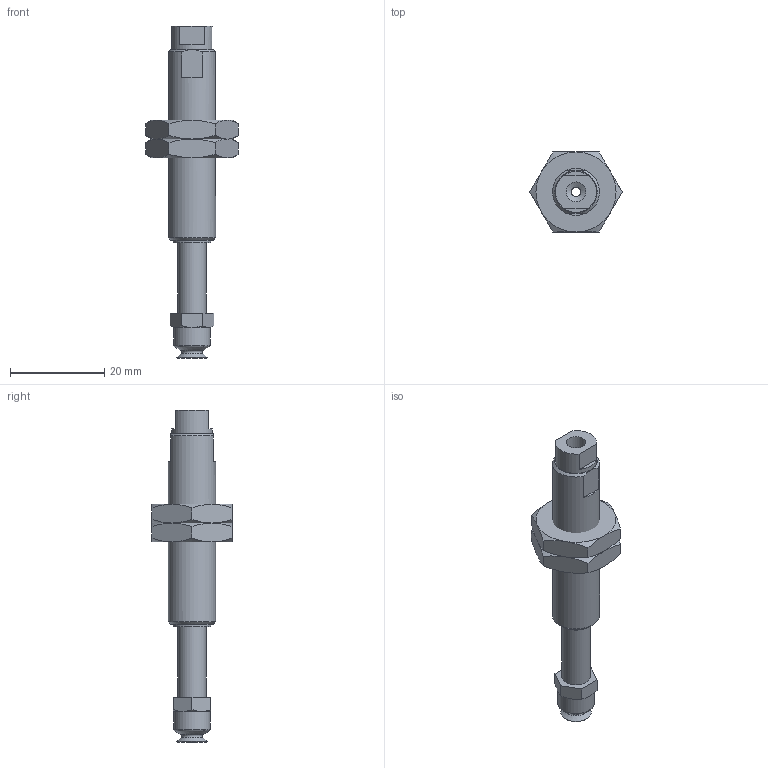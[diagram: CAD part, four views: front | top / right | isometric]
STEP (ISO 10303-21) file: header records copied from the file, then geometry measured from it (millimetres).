
FILE_DESCRIPTION(('STEP AP203'),'1');
FILE_NAME('-LB.stp','2025-10-10T05:47:40',(' '),(' '),'Spatial InterOp 3D',' ',' ');
FILE_SCHEMA(('CONFIG_CONTROL_DESIGN'));
Length unit declared in the file: millimetre
Products named in the file (8): BNABPFTH-6A-15-※-LB; NUT; __; BODY; TN-PS-10-M5; Setting screws-TN-PS-10-M5; BPFG-6A-※
Assembly tree (7 placements, depth 3):
  BNABPFTH-6A-15-※-LB
    NUT
    NUT
    __
    BODY
    TN-PS-10-M5
      Setting screws-TN-PS-10-M5
    BPFG-6A-※
Bounding box: 19.63 x 17 x 70.5 mm (x, y, z)
Volume: 5452.1 mm3; surface area: 4519.9 mm2
Topology: 6 solids, 6 shells, 125 faces, 266 edges, 160 vertices
Faces by surface type: plane 57, cone 41, cylinder 18, torus 8, bspline 1
Full cylindrical faces by diameter (mm): 2 x3, 3.9 x1, 4 x2, 4.2 x2, 5 x1, 6 x3, 7.7 x1, 8 x1, 8.7 x1, 9 x2, 10 x1
Entity records: 3617 total; most frequent: CARTESIAN_POINT 765, DIRECTION 518, ORIENTED_EDGE 442, AXIS2_PLACEMENT_3D 228, EDGE_CURVE 221, EDGE_LOOP 180, FACE_OUTER_BOUND 152, VERTEX_POINT 151
